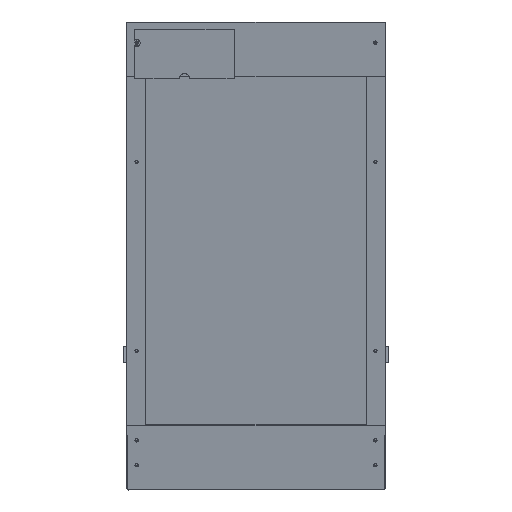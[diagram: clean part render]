
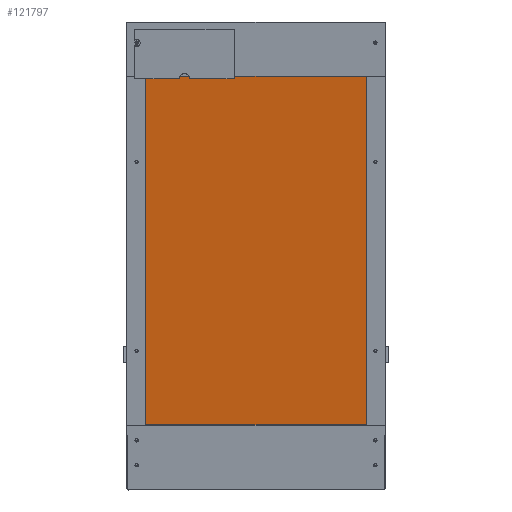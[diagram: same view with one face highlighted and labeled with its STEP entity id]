
A CAD part, top view. The second image highlights one B-rep face of the part: STEP entity #121797.
In plain terms, the highlighted planar face has unit normal (0, -0.174, 0.985).
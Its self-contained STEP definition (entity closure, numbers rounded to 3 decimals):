
#121628 = PLANE('',#121629);
#121629 = AXIS2_PLACEMENT_3D('',#121630,#121631,#121632);
#121630 = CARTESIAN_POINT('',(18.1,64.,86.285));
#121631 = DIRECTION('',(-0.,1.,0.));
#121632 = DIRECTION('',(0.,0.,-1.));
#121656 = PLANE('',#121657);
#121657 = AXIS2_PLACEMENT_3D('',#121658,#121659,#121660);
#121658 = CARTESIAN_POINT('',(241.9,240.675,111.437));
#121659 = DIRECTION('',(1.,0.,0.));
#121660 = DIRECTION('',(-0.,0.,1.));
#121684 = PLANE('',#121685);
#121685 = AXIS2_PLACEMENT_3D('',#121686,#121687,#121688);
#121686 = CARTESIAN_POINT('',(18.1,417.349,136.59));
#121687 = DIRECTION('',(0.,-1.,0.));
#121688 = DIRECTION('',(0.,0.,1.));
#121710 = PLANE('',#121711);
#121711 = AXIS2_PLACEMENT_3D('',#121712,#121713,#121714);
#121712 = CARTESIAN_POINT('',(18.1,240.675,111.437));
#121713 = DIRECTION('',(1.,0.,0.));
#121714 = DIRECTION('',(-0.,0.,1.));
#121727 = VERTEX_POINT('',#121728);
#121728 = CARTESIAN_POINT('',(241.9,417.349,148.59));
#121749 = EDGE_CURVE('',#121750,#121727,#121752,.T.);
#121750 = VERTEX_POINT('',#121751);
#121751 = CARTESIAN_POINT('',(18.1,417.349,148.59));
#121752 = SURFACE_CURVE('',#121753,(#121757,#121764),.PCURVE_S1.);
#121753 = LINE('',#121754,#121755);
#121754 = CARTESIAN_POINT('',(18.1,417.349,148.59));
#121755 = VECTOR('',#121756,1.);
#121756 = DIRECTION('',(1.,0.,0.));
#121757 = PCURVE('',#121684,#121758);
#121758 = DEFINITIONAL_REPRESENTATION('',(#121759),#121763);
#121759 = LINE('',#121760,#121761);
#121760 = CARTESIAN_POINT('',(12.,0.));
#121761 = VECTOR('',#121762,1.);
#121762 = DIRECTION('',(0.,-1.));
#121763 = ( GEOMETRIC_REPRESENTATION_CONTEXT(2) 
PARAMETRIC_REPRESENTATION_CONTEXT() REPRESENTATION_CONTEXT('2D SPACE',''
  ) );
#121764 = PCURVE('',#121765,#121770);
#121765 = PLANE('',#121766);
#121766 = AXIS2_PLACEMENT_3D('',#121767,#121768,#121769);
#121767 = CARTESIAN_POINT('',(18.1,417.349,148.59));
#121768 = DIRECTION('',(0.,0.174,-0.985));
#121769 = DIRECTION('',(0.,-0.985,-0.174));
#121770 = DEFINITIONAL_REPRESENTATION('',(#121771),#121775);
#121771 = LINE('',#121772,#121773);
#121772 = CARTESIAN_POINT('',(0.,0.));
#121773 = VECTOR('',#121774,1.);
#121774 = DIRECTION('',(0.,-1.));
#121775 = ( GEOMETRIC_REPRESENTATION_CONTEXT(2) 
PARAMETRIC_REPRESENTATION_CONTEXT() REPRESENTATION_CONTEXT('2D SPACE',''
  ) );
#121797 = ADVANCED_FACE('',(#121798),#121765,.F.);
#121798 = FACE_BOUND('',#121799,.F.);
#121799 = EDGE_LOOP('',(#121800,#121801,#121824,#121847));
#121800 = ORIENTED_EDGE('',*,*,#121749,.T.);
#121801 = ORIENTED_EDGE('',*,*,#121802,.T.);
#121802 = EDGE_CURVE('',#121727,#121803,#121805,.T.);
#121803 = VERTEX_POINT('',#121804);
#121804 = CARTESIAN_POINT('',(241.9,64.,86.285));
#121805 = SURFACE_CURVE('',#121806,(#121810,#121817),.PCURVE_S1.);
#121806 = LINE('',#121807,#121808);
#121807 = CARTESIAN_POINT('',(241.9,417.349,148.59));
#121808 = VECTOR('',#121809,1.);
#121809 = DIRECTION('',(0.,-0.985,-0.174));
#121810 = PCURVE('',#121765,#121811);
#121811 = DEFINITIONAL_REPRESENTATION('',(#121812),#121816);
#121812 = LINE('',#121813,#121814);
#121813 = CARTESIAN_POINT('',(0.,-223.8));
#121814 = VECTOR('',#121815,1.);
#121815 = DIRECTION('',(1.,0.));
#121816 = ( GEOMETRIC_REPRESENTATION_CONTEXT(2) 
PARAMETRIC_REPRESENTATION_CONTEXT() REPRESENTATION_CONTEXT('2D SPACE',''
  ) );
#121817 = PCURVE('',#121656,#121818);
#121818 = DEFINITIONAL_REPRESENTATION('',(#121819),#121823);
#121819 = LINE('',#121820,#121821);
#121820 = CARTESIAN_POINT('',(37.152,-176.675));
#121821 = VECTOR('',#121822,1.);
#121822 = DIRECTION('',(-0.174,0.985));
#121823 = ( GEOMETRIC_REPRESENTATION_CONTEXT(2) 
PARAMETRIC_REPRESENTATION_CONTEXT() REPRESENTATION_CONTEXT('2D SPACE',''
  ) );
#121824 = ORIENTED_EDGE('',*,*,#121825,.F.);
#121825 = EDGE_CURVE('',#121826,#121803,#121828,.T.);
#121826 = VERTEX_POINT('',#121827);
#121827 = CARTESIAN_POINT('',(18.1,64.,86.285));
#121828 = SURFACE_CURVE('',#121829,(#121833,#121840),.PCURVE_S1.);
#121829 = LINE('',#121830,#121831);
#121830 = CARTESIAN_POINT('',(18.1,64.,86.285));
#121831 = VECTOR('',#121832,1.);
#121832 = DIRECTION('',(1.,0.,0.));
#121833 = PCURVE('',#121765,#121834);
#121834 = DEFINITIONAL_REPRESENTATION('',(#121835),#121839);
#121835 = LINE('',#121836,#121837);
#121836 = CARTESIAN_POINT('',(358.8,0.));
#121837 = VECTOR('',#121838,1.);
#121838 = DIRECTION('',(0.,-1.));
#121839 = ( GEOMETRIC_REPRESENTATION_CONTEXT(2) 
PARAMETRIC_REPRESENTATION_CONTEXT() REPRESENTATION_CONTEXT('2D SPACE',''
  ) );
#121840 = PCURVE('',#121628,#121841);
#121841 = DEFINITIONAL_REPRESENTATION('',(#121842),#121846);
#121842 = LINE('',#121843,#121844);
#121843 = CARTESIAN_POINT('',(0.,0.));
#121844 = VECTOR('',#121845,1.);
#121845 = DIRECTION('',(0.,-1.));
#121846 = ( GEOMETRIC_REPRESENTATION_CONTEXT(2) 
PARAMETRIC_REPRESENTATION_CONTEXT() REPRESENTATION_CONTEXT('2D SPACE',''
  ) );
#121847 = ORIENTED_EDGE('',*,*,#121848,.F.);
#121848 = EDGE_CURVE('',#121750,#121826,#121849,.T.);
#121849 = SURFACE_CURVE('',#121850,(#121854,#121861),.PCURVE_S1.);
#121850 = LINE('',#121851,#121852);
#121851 = CARTESIAN_POINT('',(18.1,417.349,148.59));
#121852 = VECTOR('',#121853,1.);
#121853 = DIRECTION('',(0.,-0.985,-0.174));
#121854 = PCURVE('',#121765,#121855);
#121855 = DEFINITIONAL_REPRESENTATION('',(#121856),#121860);
#121856 = LINE('',#121857,#121858);
#121857 = CARTESIAN_POINT('',(0.,0.));
#121858 = VECTOR('',#121859,1.);
#121859 = DIRECTION('',(1.,0.));
#121860 = ( GEOMETRIC_REPRESENTATION_CONTEXT(2) 
PARAMETRIC_REPRESENTATION_CONTEXT() REPRESENTATION_CONTEXT('2D SPACE',''
  ) );
#121861 = PCURVE('',#121710,#121862);
#121862 = DEFINITIONAL_REPRESENTATION('',(#121863),#121867);
#121863 = LINE('',#121864,#121865);
#121864 = CARTESIAN_POINT('',(37.152,-176.675));
#121865 = VECTOR('',#121866,1.);
#121866 = DIRECTION('',(-0.174,0.985));
#121867 = ( GEOMETRIC_REPRESENTATION_CONTEXT(2) 
PARAMETRIC_REPRESENTATION_CONTEXT() REPRESENTATION_CONTEXT('2D SPACE',''
  ) );
